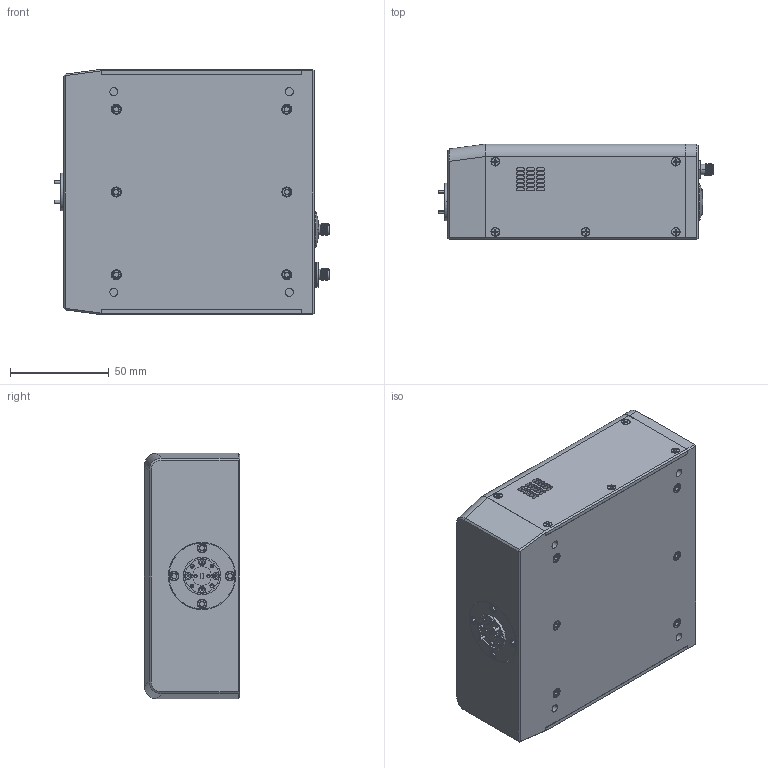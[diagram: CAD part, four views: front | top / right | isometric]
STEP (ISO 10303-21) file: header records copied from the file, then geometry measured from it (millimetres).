
FILE_DESCRIPTION (( 'STEP AP214' ), '1' );
FILE_NAME ('TC-W-A Rev 1.0, CTRLD, Mountable.STEP', '2024-05-17T18:21:22', ( '' ), ( '' ), 'SwSTEP 2.0', 'SolidWorks 2021', '' );
FILE_SCHEMA (( 'AUTOMOTIVE_DESIGN' ));
Length unit declared in the file: inch
Products named in the file (1): TC-W-A Rev 1.0, CTRLD, Mountable
Bounding box: 139.21 x 48.26 x 124.32 mm (x, y, z)
Volume: 749594.7 mm3; surface area: 104745.8 mm2
Topology: 8 solids, 9 shells, 1590 faces, 4235 edges, 2712 vertices
Faces by surface type: plane 713, cylinder 539, cone 298, bspline 36, sphere 2, torus 2
Entity records: 63060 total; most frequent: CARTESIAN_POINT 24835, ORIENTED_EDGE 8390, DIRECTION 7491, EDGE_CURVE 4195, AXIS2_PLACEMENT_3D 2714, VERTEX_POINT 2712, LINE 2063, VECTOR 2063
